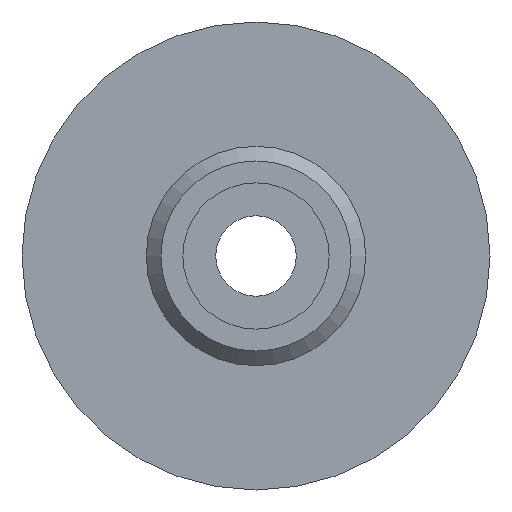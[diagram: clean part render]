
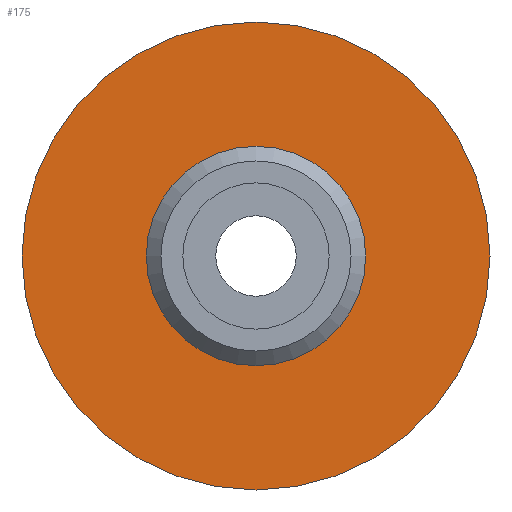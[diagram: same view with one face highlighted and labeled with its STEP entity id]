
A CAD part, left-side view. The second image highlights one B-rep face of the part: STEP entity #175.
In plain terms, the highlighted planar face has unit normal (-1, 0, 0).
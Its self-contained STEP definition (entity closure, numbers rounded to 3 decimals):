
#41=FACE_BOUND('',#66,.T.);
#50=FACE_OUTER_BOUND('',#65,.T.);
#65=EDGE_LOOP('',(#142));
#66=EDGE_LOOP('',(#143));
#81=CIRCLE('',#217,7.5);
#82=CIRCLE('',#219,16.);
#94=VERTEX_POINT('',#315);
#95=VERTEX_POINT('',#319);
#110=EDGE_CURVE('',#94,#94,#81,.T.);
#112=EDGE_CURVE('',#95,#95,#82,.T.);
#142=ORIENTED_EDGE('',*,*,#112,.F.);
#143=ORIENTED_EDGE('',*,*,#110,.T.);
#166=PLANE('',#218);
#175=ADVANCED_FACE('',(#50,#41),#166,.T.);
#217=AXIS2_PLACEMENT_3D('',#316,#260,#261);
#218=AXIS2_PLACEMENT_3D('',#318,#263,#264);
#219=AXIS2_PLACEMENT_3D('',#320,#265,#266);
#260=DIRECTION('center_axis',(1.,0.,0.));
#261=DIRECTION('ref_axis',(0.,0.,-1.));
#263=DIRECTION('center_axis',(-1.,0.,0.));
#264=DIRECTION('ref_axis',(0.,0.,1.));
#265=DIRECTION('center_axis',(1.,0.,0.));
#266=DIRECTION('ref_axis',(0.,0.,-1.));
#315=CARTESIAN_POINT('',(5.,-7.5,0.));
#316=CARTESIAN_POINT('Origin',(5.,0.,0.));
#318=CARTESIAN_POINT('Origin',(5.,16.,0.));
#319=CARTESIAN_POINT('',(5.,-16.,0.));
#320=CARTESIAN_POINT('Origin',(5.,0.,0.));
